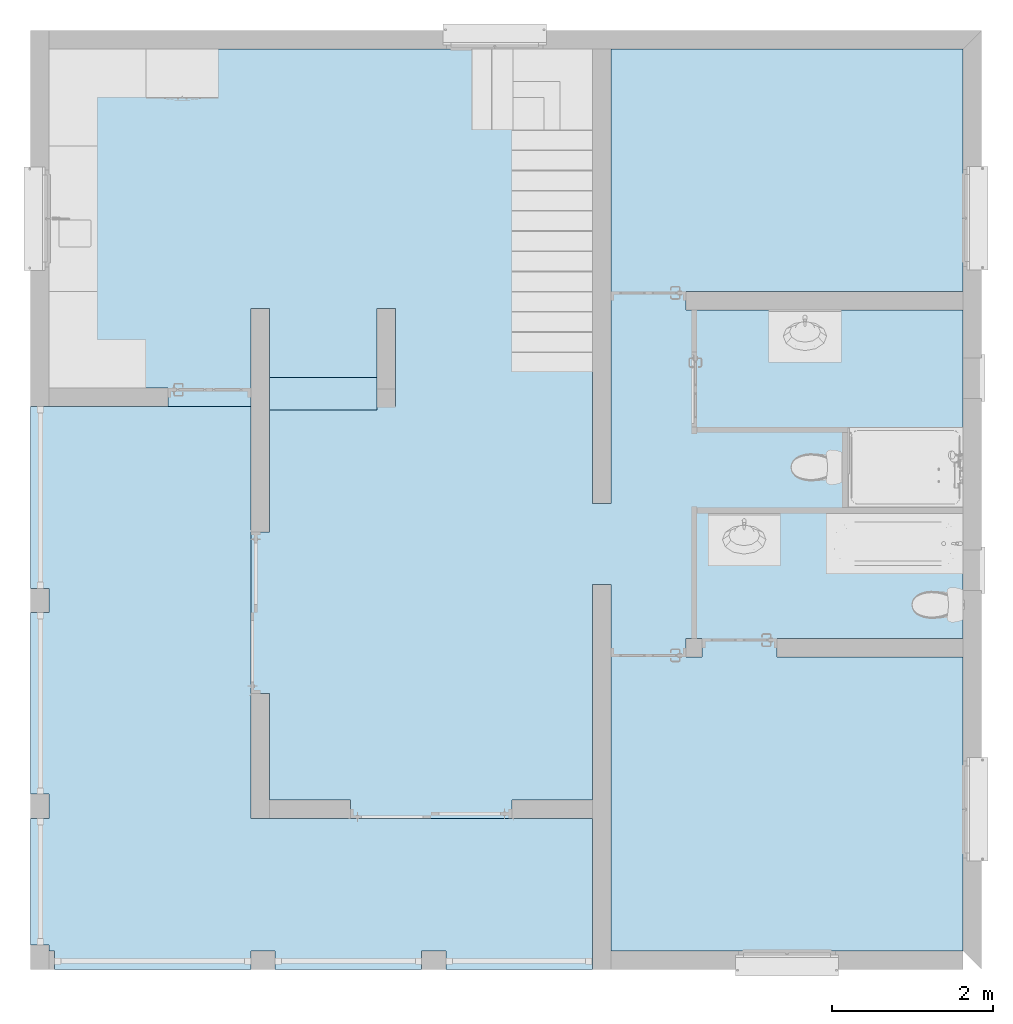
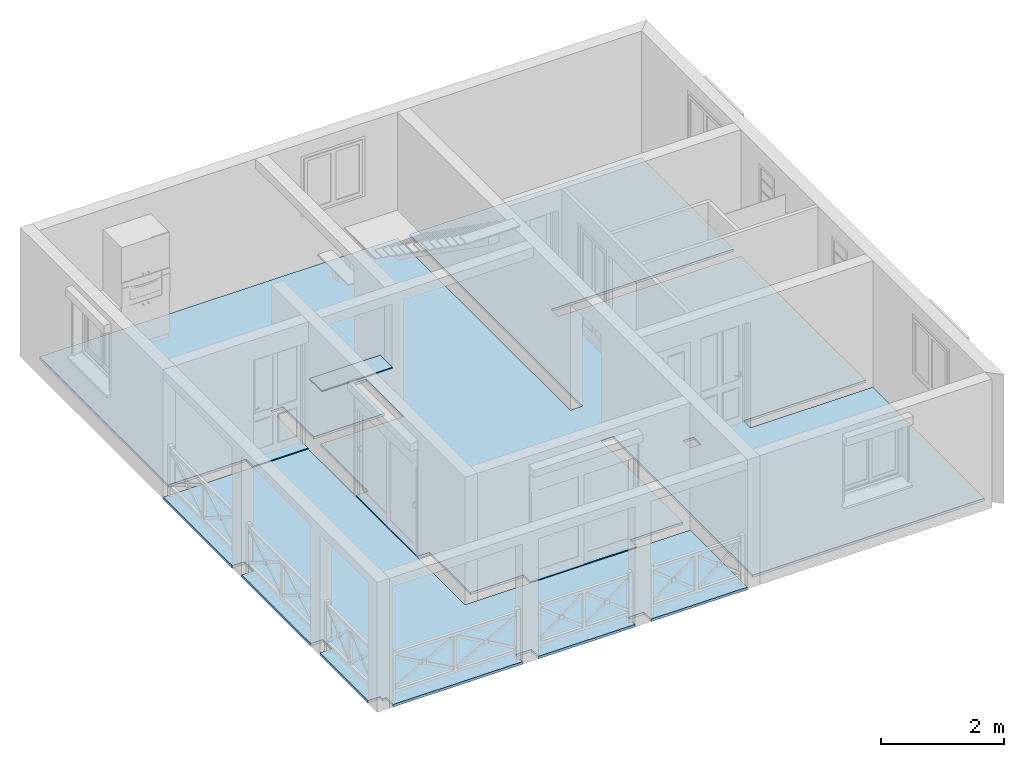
# One storey, part 1 of 17: 3 slabs, 1 opening.
"""IFC2X3 building model written with IfcOpenShell, lengths in metres."""

from ifc_helpers import new_model, entity, si_unit, converted_unit, derived_unit, money_unit, direction, frame, origin_with_axes, place, context, subcontext, project, spatial, polyline, outline, extrude, material, layer, layer_set, layer_usage, type_object, element, save


model = new_model("IFC2X3")

# Units and contexts
model_context = context("Model", 3, precision=1e-05, world=origin_with_axes(), true_north=direction((0.0, 1.0)))
body_context = subcontext(model_context, "Body", "Model", "MODEL_VIEW")
ifc_project = project(units=[si_unit("LENGTHUNIT", "METRE"), si_unit("AREAUNIT", "SQUARE_METRE"), si_unit("VOLUMEUNIT", "CUBIC_METRE"), converted_unit("PLANEANGLEUNIT", "DEGREE", entity("IfcPlaneAngleMeasure", 0.0174532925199), si_unit("PLANEANGLEUNIT", "RADIAN"), dimensions=[0, 0, 0, 0, 0, 0, 0]), si_unit("SOLIDANGLEUNIT", "STERADIAN"), money_unit("CHF"), converted_unit("TIMEUNIT", "Year", entity("IfcTimeMeasure", 31556926.0), si_unit("TIMEUNIT", "SECOND"), dimensions=[0, 0, 1, 0, 0, 0, 0]), si_unit("MASSUNIT", "GRAM", prefix="KILO"), si_unit("THERMODYNAMICTEMPERATUREUNIT", "DEGREE_CELSIUS"), si_unit("LUMINOUSINTENSITYUNIT", "LUMEN"), si_unit("ENERGYUNIT", "JOULE", prefix="MEGA"), derived_unit("THERMALCONDUCTANCEUNIT", [(si_unit("POWERUNIT", "WATT"), 1), (si_unit("LENGTHUNIT", "METRE"), -1), (si_unit("THERMODYNAMICTEMPERATUREUNIT", "KELVIN"), -1)]), derived_unit("SPECIFICHEATCAPACITYUNIT", [(si_unit("ENERGYUNIT", "JOULE"), 1), (si_unit("MASSUNIT", "GRAM", prefix="KILO"), -1), (si_unit("THERMODYNAMICTEMPERATUREUNIT", "KELVIN"), -1)]), derived_unit("MASSDENSITYUNIT", [(si_unit("MASSUNIT", "GRAM", prefix="KILO"), 1), (si_unit("VOLUMEUNIT", "CUBIC_METRE"), -1)])], contexts=[model_context])

# Site, building, storey
site_placement = place(None, origin_with_axes())
site = spatial("IfcSite", under=ifc_project, at=site_placement, Name="Site", CompositionType="ELEMENT")
building_placement = place(site_placement, origin_with_axes())
building = spatial("IfcBuilding", under=site, at=building_placement, Name="Bâtiment", CompositionType="ELEMENT")
storey_placement = place(building_placement, frame((0.0, 0.0, 3.0), z_axis=(0.0, 0.0, 1.0), x_axis=(1.0, 0.0, 0.0)))
storey = spatial("IfcBuildingStorey", under=building, at=storey_placement, Name="RDJ", CompositionType="ELEMENT", Elevation=3.0)

# Slab, opening
ifc_material_1 = material(Name="Struct. - Chape")
ifc_layer_1 = layer(ifc_material_1, 0.05, ventilated="UNKNOWN")
ifc_layer_set_1 = layer_set([ifc_layer_1], Name="Struct. - Chape 0.05")
ifc_layer_usage_1 = layer_usage(ifc_layer_set_1, "AXIS3", "NEGATIVE", 0.05)
slab_type_1 = type_object("IfcSlabType", Name="Struct. - Chape 50", PredefinedType="FLOOR")
slab_1_placement = place(storey_placement, frame((85.0135190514, 14.3803409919, -3.0), z_axis=(0.0, 0.0, 1.0), x_axis=(1.0, 0.0, 0.0)))
slab_1 = element("IfcSlab", 1, at=slab_1_placement, inside=storey, type_object=slab_type_1, material=ifc_layer_usage_1, Name="Dalle-011", PredefinedType="FLOOR", context=body_context, shape_type="SweptSolid", body=[
    extrude(outline(polyline([(0.0, 0.0), (1.47000005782, 0.0), (1.47000005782, -0.229999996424), (2.49999999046, -0.229999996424), (2.49999999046, 0.988261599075), (2.72999998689, 0.988261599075), (2.72999998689, 0.0), (4.06200001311, 0.0), (4.06200001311, 0.988261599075), (4.29200000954, 0.988261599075), (4.29200000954, -0.229999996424), (2.72999998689, -0.229999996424), (2.72999998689, -1.78053711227), (2.49999999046, -1.78053711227), (2.49999999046, -3.78053720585), (2.72999998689, -3.78053720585), (2.72999998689, -5.10107432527), (3.73088248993, -5.10107432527), (3.73088248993, -5.3310743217), (5.73088258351, -5.3310743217), (5.73088258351, -5.10107432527), (6.73000000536, -5.10107432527), (6.73000000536, -2.42999994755), (6.96000000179, -2.42999994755), (6.96000000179, -6.96999993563), (11.32, -6.96999993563), (11.32, -3.32999989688), (9.01769871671, -3.32999989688), (9.01769871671, -3.09999990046), (11.32, -3.09999990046), (11.32, 0.969999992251), (7.88999992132, 0.969999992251), (7.88999992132, 1.19999998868), (11.32, 1.19999998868), (11.32, 4.2000000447), (6.96000000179, 4.2000000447), (6.96000000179, -1.4299999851), (6.73000000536, -1.4299999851), (6.73000000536, 4.2000000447), (0.0, 4.2000000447), (0.0, 0.0)])), frame((0.0, 0.0, -0.05), z_axis=(0.0, 0.0, 1.0), x_axis=(1.0, 0.0, 0.0)), (0.0, 0.0, 1.0), 0.05),
])
opening_placement = place(slab_1_placement, frame((8.0876986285, -3.32999989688, 0.0), z_axis=(0.0, 0.0, 1.0), x_axis=(0.0, 1.0, 0.0)))
element("IfcOpeningElement", 2, at=opening_placement, cuts=slab_1, Name="Ouverture de dalle", context=body_context, shape_type="SweptSolid", body=[
    extrude(outline(polyline([(0.0, 0.0), (0.229999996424, 0.0), (0.229999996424, 0.197698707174), (0.0, 0.197698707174), (0.0, 0.0)])), frame((0.0, 0.0, -0.05), z_axis=(0.0, 0.0, 1.0), x_axis=(1.0, 0.0, 0.0)), (0.0, 0.0, 1.0), 0.05),
])

# Slabs
ifc_layer_usage_2 = layer_usage(ifc_layer_set_1, "AXIS3", "NEGATIVE", 0.05)
slab_2_placement = place(storey_placement, frame((84.7835190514, 14.1503410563, -3.02), z_axis=(0.0, 0.0, 1.0), x_axis=(1.0, 0.0, 0.0)))
element("IfcSlab", 3, at=slab_2_placement, inside=storey, type_object=slab_type_1, material=ifc_layer_usage_2, Name="Dalle-010", PredefinedType="FLOOR", context=body_context, shape_type="SweptSolid", body=[
    extrude(outline(polyline([(0.0, 0.0), (0.0, -2.24961588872), (0.23, -2.24961588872), (0.23, -2.54961588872), (0.0, -2.54961588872), (0.0, -4.79923177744), (0.23, -4.79923177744), (0.23, -5.10107445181), (0.0, -5.10107445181), (0.0, -6.66851781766), (0.23, -6.66851781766), (0.23, -6.74), (0.3, -6.74), (0.3, -6.97), (2.73, -6.97), (2.73, -6.74), (3.03, -6.74), (3.03, -6.97), (4.845, -6.97), (4.845, -6.74), (5.145, -6.74), (5.145, -6.97), (6.96, -6.97), (6.96, -5.10107445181), (2.73, -5.10107445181), (2.73, 0.0), (0.0, 0.0)])), frame((0.0, 0.0, -0.05), z_axis=(0.0, 0.0, 1.0), x_axis=(1.0, 0.0, 0.0)), (0.0, 0.0, 1.0), 0.05),
])
ifc_material_2 = material(Name="Hachure solide 2628782308")
ifc_layer_2 = layer(ifc_material_2, 0.02, ventilated="UNKNOWN")
ifc_layer_set_2 = layer_set([ifc_layer_2], Name="Hachure solide 2628782308 0.02")
ifc_layer_usage_3 = layer_usage(ifc_layer_set_2, "AXIS3", "NEGATIVE", 0.02)
slab_type_2 = type_object("IfcSlabType", Name="Hachure solide 2628782308 20", PredefinedType="FLOOR")
slab_3_placement = place(storey_placement, frame((89.0755190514, 14.5122527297, -1.92), z_axis=(0.0, 0.0, 1.0), x_axis=(1.0, 0.0, 0.0)))
element("IfcSlab", 4, at=slab_3_placement, inside=storey, type_object=slab_type_2, material=ifc_layer_usage_3, Name="Dalle-011", PredefinedType="FLOOR", context=body_context, shape_type="SweptSolid", body=[
    extrude(outline(polyline([(0.0, 0.0), (-1.332, 0.0), (-1.332, -0.4), (0.0, -0.4), (0.0, 0.0)])), frame((0.0, 0.0, -0.02), z_axis=(0.0, 0.0, 1.0), x_axis=(1.0, 0.0, 0.0)), (0.0, 0.0, 1.0), 0.02),
])

save(model, "model.ifc")
